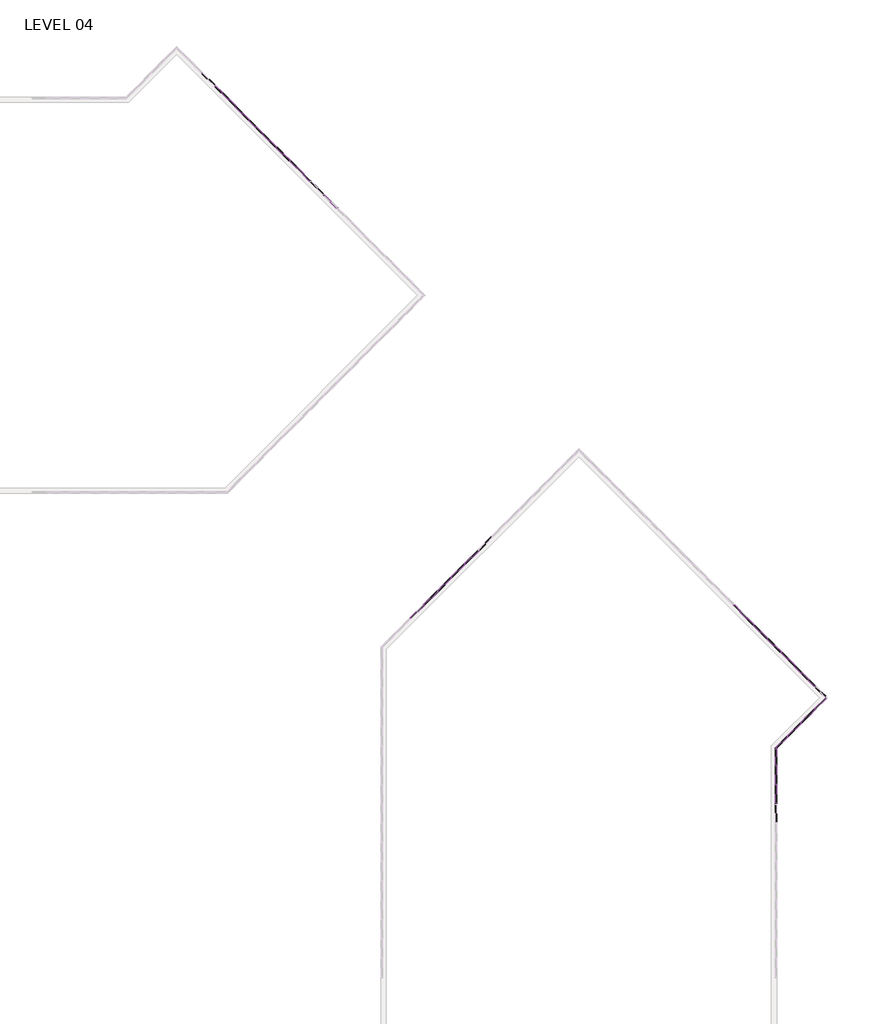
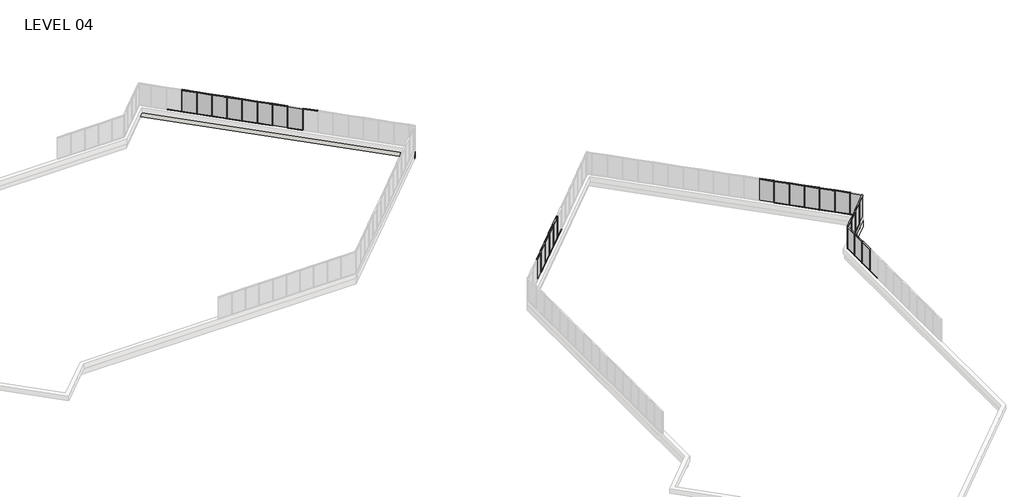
# One storey, part 16 of 17: 80 members, 27 plates, 2 walls.
"""IFC4 building model written with IfcOpenShell, lengths in millimetres."""

from ifc_helpers import new_model, si_unit, origin, place, context, project, spatial, faceted_brep, transform, mapped, element, save
from components import member_5247f267, member_e44af9ab, member_c23f844a, member_ed9c17d6, member_800970d4, member_45eb7f2e, member_53409b32, member_43bac76b, member_0b71a88d, plate_67294edd, plate_50b9cd61, plate_048e4634, plate_dca6a18a, plate_aaac5d3d, plate_9c66726c, plate_e0fd5134, plate_15429445, plate_0d1907f3, plate_903242d9

model = new_model("IFC4")

# Units and contexts
model_context = context("Model", 3, world=origin())
ifc_project = project(units=[si_unit("LENGTHUNIT", "METRE", prefix="MILLI")], contexts=[model_context])

# Site, building, storey
site = spatial("IfcSite", under=ifc_project)
building = spatial("IfcBuilding", under=site)
storey = spatial("IfcBuildingStorey", under=building, Name="LEVEL 04", Elevation=12052.3)

# Members
placement = place(None, origin())
member_shape = member_5247f267(model_context)
element("IfcMember", 1, ObjectType="Rectangular Mullion : 2\" x 4.5\" rectangular", at=placement, inside=storey, context=model_context, shape_type="MappedRepresentation", body=[
    mapped(member_shape, transform((56684.0325556, 112485.575885, 12052.3), x_axis=(0.0, 0.0, -1.0), y_axis=(0.7071067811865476, 0.7071067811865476, 0.0), z_axis=(0.7071067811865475, -0.7071067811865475, 0.0))),
])
element("IfcMember", 2, ObjectType="Rectangular Mullion : 2\" x 4.5\" rectangular", at=placement, inside=storey, context=model_context, shape_type="MappedRepresentation", body=[
    mapped(member_shape, transform((50242.2689164, 118927.3395242, 12052.3), x_axis=(0.0, 0.0, -1.0), y_axis=(0.7071067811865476, 0.7071067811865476, 0.0), z_axis=(0.7071067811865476, -0.7071067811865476, 0.0))),
])
element("IfcMember", 3, ObjectType="Rectangular Mullion : 2\" x 4.5\" rectangular", at=placement, inside=storey, context=model_context, shape_type="MappedRepresentation", body=[
    mapped(member_shape, transform((49164.6381819, 120004.9702587, 12052.3), x_axis=(0.0, 0.0, -1.0), y_axis=(0.7071067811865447, 0.7071067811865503, 0.0), z_axis=(0.7071067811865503, -0.7071067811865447, 0.0))),
])
element("IfcMember", 4, ObjectType="Rectangular Mullion : 2\" x 4.5\" rectangular", at=placement, inside=storey, context=model_context, shape_type="MappedRepresentation", body=[
    mapped(member_shape, transform((48087.0074473, 121082.6009932, 12052.3), x_axis=(0.0, 0.0, -1.0), y_axis=(0.7071067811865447, 0.7071067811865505, 0.0), z_axis=(0.7071067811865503, -0.7071067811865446, 0.0))),
])
element("IfcMember", 5, ObjectType="Rectangular Mullion : 2\" x 4.5\" rectangular", at=placement, inside=storey, context=model_context, shape_type="MappedRepresentation", body=[
    mapped(member_shape, transform((56719.9535801, 112449.6548605, 14643.1), x_axis=(0.0, 0.0, 1.0), y_axis=(0.7071067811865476, 0.7071067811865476, 0.0), z_axis=(-0.7071067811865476, 0.7071067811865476, 0.0))),
])
element("IfcMember", 6, ObjectType="Rectangular Mullion : 2\" x 4.5\" rectangular", at=placement, inside=storey, context=model_context, shape_type="MappedRepresentation", body=[
    mapped(member_shape, transform((49200.5592064, 119969.0492342, 14643.1), x_axis=(0.0, 0.0, 1.0), y_axis=(0.7071067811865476, 0.7071067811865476, 0.0), z_axis=(-0.7071067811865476, 0.7071067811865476, 0.0))),
])
element("IfcMember", 7, ObjectType="Rectangular Mullion : 2\" x 4.5\" rectangular", at=placement, inside=storey, context=model_context, shape_type="MappedRepresentation", body=[
    mapped(member_shape, transform((48122.9284718, 121046.6799687, 14643.1), x_axis=(0.0, 0.0, 1.0), y_axis=(0.7071067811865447, 0.7071067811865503, 0.0), z_axis=(-0.7071067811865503, 0.7071067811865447, 0.0))),
])
member_2_shape = member_e44af9ab(model_context)
element("IfcMember", 8, ObjectType="Rectangular Mullion : 2\" x 4.5\" rectangular", at=placement, inside=storey, context=model_context, shape_type="MappedRepresentation", body=[
    mapped(member_2_shape, transform((56701.9930678, 112467.6153727, 12052.3), x_axis=(-0.7071067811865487, 0.7071067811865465, 0.0), y_axis=(0.7071067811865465, 0.7071067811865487, 0.0), z_axis=(0.0, 0.0, -1.0))),
])
element("IfcMember", 9, ObjectType="Rectangular Mullion : 2\" x 4.5\" rectangular", at=placement, inside=storey, context=model_context, shape_type="MappedRepresentation", body=[
    mapped(member_2_shape, transform((55624.3980678, 113545.2103727, 12052.3), x_axis=(-0.7071067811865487, 0.7071067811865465, 0.0), y_axis=(0.7071067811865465, 0.7071067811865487, 0.0), z_axis=(0.0, 0.0, -1.0))),
])
element("IfcMember", 10, ObjectType="Rectangular Mullion : 2\" x 4.5\" rectangular", at=placement, inside=storey, context=model_context, shape_type="MappedRepresentation", body=[
    mapped(member_2_shape, transform((53475.159658, 115694.4487825, 12052.3), x_axis=(-0.7071067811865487, 0.7071067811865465, 0.0), y_axis=(0.7071067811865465, 0.7071067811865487, 0.0), z_axis=(0.0, 0.0, -1.0))),
])
element("IfcMember", 11, ObjectType="Rectangular Mullion : 2\" x 4.5\" rectangular", at=placement, inside=storey, context=model_context, shape_type="MappedRepresentation", body=[
    mapped(member_2_shape, transform((52403.5162482, 116766.0921923, 12052.3), x_axis=(-0.7071067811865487, 0.7071067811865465, 0.0), y_axis=(0.7071067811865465, 0.7071067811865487, 0.0), z_axis=(0.0, 0.0, -1.0))),
])
element("IfcMember", 12, ObjectType="Rectangular Mullion : 2\" x 4.5\" rectangular", at=placement, inside=storey, context=model_context, shape_type="MappedRepresentation", body=[
    mapped(member_2_shape, transform((51331.8728384, 117837.7356021, 12052.3), x_axis=(-0.7071067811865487, 0.7071067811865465, 0.0), y_axis=(0.7071067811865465, 0.7071067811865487, 0.0), z_axis=(0.0, 0.0, -1.0))),
])
element("IfcMember", 13, ObjectType="Rectangular Mullion : 2\" x 4.5\" rectangular", at=placement, inside=storey, context=model_context, shape_type="MappedRepresentation", body=[
    mapped(member_2_shape, transform((50260.2294286, 118909.3790119, 12052.3), x_axis=(-0.7071067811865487, 0.7071067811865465, 0.0), y_axis=(0.7071067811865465, 0.7071067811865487, 0.0), z_axis=(0.0, 0.0, -1.0))),
])
element("IfcMember", 14, ObjectType="Rectangular Mullion : 2\" x 4.5\" rectangular", at=placement, inside=storey, context=model_context, shape_type="MappedRepresentation", body=[
    mapped(member_2_shape, transform((54549.7788629, 114619.8295776, 12052.3), x_axis=(-0.7071067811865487, 0.7071067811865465, 0.0), y_axis=(0.7071067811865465, 0.7071067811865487, 0.0), z_axis=(0.0, 0.0, -1.0))),
])
element("IfcMember", 15, ObjectType="Rectangular Mullion : 2\" x 4.5\" rectangular", at=placement, inside=storey, context=model_context, shape_type="MappedRepresentation", body=[
    mapped(member_2_shape, transform((49182.5986941, 119987.0097464, 12052.3), x_axis=(-0.7071067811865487, 0.7071067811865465, 0.0), y_axis=(0.7071067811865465, 0.7071067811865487, 0.0), z_axis=(0.0, 0.0, -1.0))),
])
element("IfcMember", 16, ObjectType="Rectangular Mullion : 2\" x 4.5\" rectangular", at=placement, inside=storey, context=model_context, shape_type="MappedRepresentation", body=[
    mapped(member_2_shape, transform((48104.9679596, 121064.640481, 12052.3), x_axis=(-0.7071067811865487, 0.7071067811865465, 0.0), y_axis=(0.7071067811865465, 0.7071067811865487, 0.0), z_axis=(0.0, 0.0, -1.0))),
])
member_3_shape = member_c23f844a(model_context)
element("IfcMember", 17, ObjectType="Rectangular Mullion : 2\" x 4.5\" rectangular", at=placement, inside=storey, context=model_context, shape_type="MappedRepresentation", body=[
    mapped(member_3_shape, transform((52421.4767605, 116748.1316801, 14643.1), x_axis=(0.0, 0.0, 1.0), y_axis=(0.7071067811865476, 0.7071067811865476, 0.0), z_axis=(-0.7071067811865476, 0.7071067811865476, 0.0))),
])
element("IfcMember", 18, ObjectType="Rectangular Mullion : 2\" x 4.5\" rectangular", at=placement, inside=storey, context=model_context, shape_type="MappedRepresentation", body=[
    mapped(member_3_shape, transform((51349.8333507, 117819.7750899, 14643.1), x_axis=(0.0, 0.0, 1.0), y_axis=(0.7071067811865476, 0.7071067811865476, 0.0), z_axis=(-0.7071067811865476, 0.7071067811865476, 0.0))),
])
element("IfcMember", 19, ObjectType="Rectangular Mullion : 2\" x 4.5\" rectangular", at=placement, inside=storey, context=model_context, shape_type="MappedRepresentation", body=[
    mapped(member_3_shape, transform((50278.1899409, 118891.4184997, 14643.1), x_axis=(0.0, 0.0, 1.0), y_axis=(0.7071067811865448, 0.7071067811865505, 0.0), z_axis=(-0.7071067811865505, 0.7071067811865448, 0.0))),
])
element("IfcMember", 20, ObjectType="Rectangular Mullion : 2\" x 4.5\" rectangular", at=placement, inside=storey, context=model_context, shape_type="MappedRepresentation", body=[
    mapped(member_3_shape, transform((53457.1991458, 115712.4092948, 12052.3), x_axis=(0.0, 0.0, -1.0), y_axis=(0.7071067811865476, 0.7071067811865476, 0.0), z_axis=(0.7071067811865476, -0.7071067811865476, 0.0))),
])
element("IfcMember", 21, ObjectType="Rectangular Mullion : 2\" x 4.5\" rectangular", at=placement, inside=storey, context=model_context, shape_type="MappedRepresentation", body=[
    mapped(member_3_shape, transform((52385.555736, 116784.0527046, 12052.3), x_axis=(0.0, 0.0, -1.0), y_axis=(0.7071067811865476, 0.7071067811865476, 0.0), z_axis=(0.7071067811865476, -0.7071067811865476, 0.0))),
])
element("IfcMember", 22, ObjectType="Rectangular Mullion : 2\" x 4.5\" rectangular", at=placement, inside=storey, context=model_context, shape_type="MappedRepresentation", body=[
    mapped(member_3_shape, transform((51313.9123262, 117855.6961144, 12052.3), x_axis=(0.0, 0.0, -1.0), y_axis=(0.7071067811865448, 0.7071067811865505, 0.0), z_axis=(0.7071067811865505, -0.7071067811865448, 0.0))),
])
member_4_shape = member_ed9c17d6(model_context)
element("IfcMember", 23, ObjectType="Rectangular Mullion : 2\" x 4.5\" rectangular", at=placement, inside=storey, context=model_context, shape_type="MappedRepresentation", body=[
    mapped(member_4_shape, transform((53493.1201703, 115676.4882703, 14643.1), x_axis=(0.0, 0.0, 1.0), y_axis=(0.7071067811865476, 0.7071067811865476, 0.0), z_axis=(-0.7071067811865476, 0.7071067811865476, 0.0))),
])
element("IfcMember", 24, ObjectType="Rectangular Mullion : 2\" x 4.5\" rectangular", at=placement, inside=storey, context=model_context, shape_type="MappedRepresentation", body=[
    mapped(member_4_shape, transform((54567.7393752, 114601.8690654, 14643.1), x_axis=(0.0, 0.0, 1.0), y_axis=(0.7071067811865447, 0.7071067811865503, 0.0), z_axis=(-0.7071067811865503, 0.7071067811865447, 0.0))),
])
element("IfcMember", 25, ObjectType="Rectangular Mullion : 2\" x 4.5\" rectangular", at=placement, inside=storey, context=model_context, shape_type="MappedRepresentation", body=[
    mapped(member_4_shape, transform((54531.8183507, 114637.7900899, 12052.3), x_axis=(0.0, 0.0, -1.0), y_axis=(0.7071067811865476, 0.7071067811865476, 0.0), z_axis=(0.7071067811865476, -0.7071067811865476, 0.0))),
])
element("IfcMember", 26, ObjectType="Rectangular Mullion : 2\" x 4.5\" rectangular", at=placement, inside=storey, context=model_context, shape_type="MappedRepresentation", body=[
    mapped(member_shape, transform((92435.9347164, 65925.3675885, 14643.1), x_axis=(0.0, 0.0, 1.0), y_axis=(-1.0, 0.0, 0.0), z_axis=(0.0, -1.0, 0.0))),
])
element("IfcMember", 27, ObjectType="Rectangular Mullion : 2\" x 4.5\" rectangular", at=placement, inside=storey, context=model_context, shape_type="MappedRepresentation", body=[
    mapped(member_shape, transform((92435.9347164, 64401.3675885, 14643.1), x_axis=(0.0, 0.0, 1.0), y_axis=(-1.0, 0.0, 0.0), z_axis=(0.0, -1.0, 0.0))),
])
element("IfcMember", 28, ObjectType="Rectangular Mullion : 2\" x 4.5\" rectangular", at=placement, inside=storey, context=model_context, shape_type="MappedRepresentation", body=[
    mapped(member_shape, transform((64595.6050033, 80065.494011, 14643.1), x_axis=(0.0, 0.0, 1.0), y_axis=(0.7071067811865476, -0.7071067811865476, 0.0), z_axis=(0.7071067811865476, 0.7071067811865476, 0.0))),
])
element("IfcMember", 29, ObjectType="Rectangular Mullion : 2\" x 4.5\" rectangular", at=placement, inside=storey, context=model_context, shape_type="MappedRepresentation", body=[
    mapped(member_shape, transform((65673.2357378, 81143.1247456, 14643.1), x_axis=(0.0, 0.0, 1.0), y_axis=(0.7071067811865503, -0.7071067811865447, 0.0), z_axis=(0.7071067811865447, 0.7071067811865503, 0.0))),
])
element("IfcMember", 30, ObjectType="Rectangular Mullion : 2\" x 4.5\" rectangular", at=placement, inside=storey, context=model_context, shape_type="MappedRepresentation", body=[
    mapped(member_shape, transform((67828.4824051, 83298.3714129, 14643.1), x_axis=(0.0, 0.0, 1.0), y_axis=(0.7071067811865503, -0.7071067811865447, 0.0), z_axis=(0.7071067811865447, 0.7071067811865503, 0.0))),
])
element("IfcMember", 31, ObjectType="Rectangular Mullion : 2\" x 4.5\" rectangular", at=placement, inside=storey, context=model_context, shape_type="MappedRepresentation", body=[
    mapped(member_shape, transform((68906.0983379, 84375.9873457, 14643.1), x_axis=(0.0, 0.0, 1.0), y_axis=(0.7071067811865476, -0.7071067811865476, 0.0), z_axis=(0.7071067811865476, 0.7071067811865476, 0.0))),
])
element("IfcMember", 32, ObjectType="Rectangular Mullion : 2\" x 4.5\" rectangular", at=placement, inside=storey, context=model_context, shape_type="MappedRepresentation", body=[
    mapped(member_shape, transform((66750.8590715, 82220.7480792, 14643.1), x_axis=(0.0, 0.0, 1.0), y_axis=(0.7071067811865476, -0.7071067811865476, 0.0), z_axis=(0.7071067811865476, 0.7071067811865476, 0.0))),
])
element("IfcMember", 33, ObjectType="Rectangular Mullion : 2\" x 4.5\" rectangular", at=placement, inside=storey, context=model_context, shape_type="MappedRepresentation", body=[
    mapped(member_shape, transform((92277.0316457, 76892.5767949, 14643.1), x_axis=(0.0, 0.0, 1.0), y_axis=(-0.7071067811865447, -0.7071067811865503, 0.0), z_axis=(0.7071067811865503, -0.7071067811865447, 0.0))),
])
element("IfcMember", 34, ObjectType="Rectangular Mullion : 2\" x 4.5\" rectangular", at=placement, inside=storey, context=model_context, shape_type="MappedRepresentation", body=[
    mapped(member_shape, transform((93354.6623802, 75814.9460603, 14643.1), x_axis=(0.0, 0.0, 1.0), y_axis=(-0.7071067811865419, -0.7071067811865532, 0.0), z_axis=(0.7071067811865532, -0.7071067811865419, 0.0))),
])
element("IfcMember", 35, ObjectType="Rectangular Mullion : 2\" x 4.5\" rectangular", at=placement, inside=storey, context=model_context, shape_type="MappedRepresentation", body=[
    mapped(member_shape, transform((94432.2931147, 74737.3153258, 14643.1), x_axis=(0.0, 0.0, 1.0), y_axis=(-0.7071067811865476, -0.7071067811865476, 0.0), z_axis=(0.7071067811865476, -0.7071067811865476, 0.0))),
])
element("IfcMember", 36, ObjectType="Rectangular Mullion : 2\" x 4.5\" rectangular", at=placement, inside=storey, context=model_context, shape_type="MappedRepresentation", body=[
    mapped(member_shape, transform((95509.9238493, 73659.6845913, 14643.1), x_axis=(0.0, 0.0, 1.0), y_axis=(-0.7071067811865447, -0.7071067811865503, 0.0), z_axis=(0.7071067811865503, -0.7071067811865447, 0.0))),
])
element("IfcMember", 37, ObjectType="Rectangular Mullion : 2\" x 4.5\" rectangular", at=placement, inside=storey, context=model_context, shape_type="MappedRepresentation", body=[
    mapped(member_shape, transform((94441.1847655, 70787.511502, 14643.1), x_axis=(0.0, 0.0, 1.0), y_axis=(-0.7071067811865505, 0.7071067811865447, 0.0), z_axis=(-0.7071067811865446, -0.7071067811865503, 0.0))),
])
element("IfcMember", 38, ObjectType="Rectangular Mullion : 2\" x 4.5\" rectangular", at=placement, inside=storey, context=model_context, shape_type="MappedRepresentation", body=[
    mapped(member_shape, transform((93363.554031, 69709.8807675, 14643.1), x_axis=(0.0, 0.0, 1.0), y_axis=(-0.7071067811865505, 0.7071067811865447, 0.0), z_axis=(-0.7071067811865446, -0.7071067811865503, 0.0))),
])
element("IfcMember", 39, ObjectType="Rectangular Mullion : 2\" x 4.5\" rectangular", at=placement, inside=storey, context=model_context, shape_type="MappedRepresentation", body=[
    mapped(member_shape, transform((92435.9347164, 67398.5675885, 12052.3), x_axis=(0.0, 0.0, -1.0), y_axis=(-1.0, 0.0, 0.0), z_axis=(0.0, 1.0, 0.0))),
])
element("IfcMember", 40, ObjectType="Rectangular Mullion : 2\" x 4.5\" rectangular", at=placement, inside=storey, context=model_context, shape_type="MappedRepresentation", body=[
    mapped(member_shape, transform((92435.9347164, 65874.5675885, 12052.3), x_axis=(0.0, 0.0, -1.0), y_axis=(-1.0, 0.0, 0.0), z_axis=(0.0, 1.0, 0.0))),
])
element("IfcMember", 41, ObjectType="Rectangular Mullion : 2\" x 4.5\" rectangular", at=placement, inside=storey, context=model_context, shape_type="MappedRepresentation", body=[
    mapped(member_shape, transform((92435.9347164, 64350.5675885, 12052.3), x_axis=(0.0, 0.0, -1.0), y_axis=(-1.0, 0.0, 0.0), z_axis=(0.0, 1.0, 0.0))),
])
element("IfcMember", 42, ObjectType="Rectangular Mullion : 2\" x 4.5\" rectangular", at=placement, inside=storey, context=model_context, shape_type="MappedRepresentation", body=[
    mapped(member_shape, transform((64631.5260278, 80101.4150355, 12052.3), x_axis=(0.0, 0.0, -1.0), y_axis=(0.7071067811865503, -0.7071067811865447, 0.0), z_axis=(-0.7071067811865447, -0.7071067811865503, 0.0))),
])
element("IfcMember", 43, ObjectType="Rectangular Mullion : 2\" x 4.5\" rectangular", at=placement, inside=storey, context=model_context, shape_type="MappedRepresentation", body=[
    mapped(member_shape, transform((65709.1567623, 81179.04577, 12052.3), x_axis=(0.0, 0.0, -1.0), y_axis=(0.7071067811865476, -0.7071067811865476, 0.0), z_axis=(-0.7071067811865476, -0.7071067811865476, 0.0))),
])
element("IfcMember", 44, ObjectType="Rectangular Mullion : 2\" x 4.5\" rectangular", at=placement, inside=storey, context=model_context, shape_type="MappedRepresentation", body=[
    mapped(member_shape, transform((67864.4034296, 83334.2924374, 12052.3), x_axis=(0.0, 0.0, -1.0), y_axis=(0.7071067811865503, -0.7071067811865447, 0.0), z_axis=(-0.7071067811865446, -0.7071067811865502, 0.0))),
])
element("IfcMember", 45, ObjectType="Rectangular Mullion : 2\" x 4.5\" rectangular", at=placement, inside=storey, context=model_context, shape_type="MappedRepresentation", body=[
    mapped(member_shape, transform((68942.0193624, 84411.9083702, 12052.3), x_axis=(0.0, 0.0, -1.0), y_axis=(0.7071067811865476, -0.7071067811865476, 0.0), z_axis=(-0.7071067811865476, -0.7071067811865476, 0.0))),
])
element("IfcMember", 46, ObjectType="Rectangular Mullion : 2\" x 4.5\" rectangular", at=placement, inside=storey, context=model_context, shape_type="MappedRepresentation", body=[
    mapped(member_shape, transform((66786.780096, 82256.6691037, 12052.3), x_axis=(0.0, 0.0, -1.0), y_axis=(0.7071067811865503, -0.7071067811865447, 0.0), z_axis=(-0.7071067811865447, -0.7071067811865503, 0.0))),
])
element("IfcMember", 47, ObjectType="Rectangular Mullion : 2\" x 4.5\" rectangular", at=placement, inside=storey, context=model_context, shape_type="MappedRepresentation", body=[
    mapped(member_shape, transform((91235.3219356, 77934.2865049, 12052.3), x_axis=(0.0, 0.0, -1.0), y_axis=(-0.7071067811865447, -0.7071067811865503, 0.0), z_axis=(-0.7071067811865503, 0.7071067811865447, 0.0))),
])
element("IfcMember", 48, ObjectType="Rectangular Mullion : 2\" x 4.5\" rectangular", at=placement, inside=storey, context=model_context, shape_type="MappedRepresentation", body=[
    mapped(member_shape, transform((92312.9526702, 76856.6557704, 12052.3), x_axis=(0.0, 0.0, -1.0), y_axis=(-0.7071067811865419, -0.7071067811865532, 0.0), z_axis=(-0.7071067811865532, 0.7071067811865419, 0.0))),
])
element("IfcMember", 49, ObjectType="Rectangular Mullion : 2\" x 4.5\" rectangular", at=placement, inside=storey, context=model_context, shape_type="MappedRepresentation", body=[
    mapped(member_shape, transform((93390.5834047, 75779.0250359, 12052.3), x_axis=(0.0, 0.0, -1.0), y_axis=(-0.7071067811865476, -0.7071067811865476, 0.0), z_axis=(-0.7071067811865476, 0.7071067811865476, 0.0))),
])
element("IfcMember", 50, ObjectType="Rectangular Mullion : 2\" x 4.5\" rectangular", at=placement, inside=storey, context=model_context, shape_type="MappedRepresentation", body=[
    mapped(member_shape, transform((94468.2141392, 74701.3943013, 12052.3), x_axis=(0.0, 0.0, -1.0), y_axis=(-0.7071067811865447, -0.7071067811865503, 0.0), z_axis=(-0.7071067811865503, 0.7071067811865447, 0.0))),
])
element("IfcMember", 51, ObjectType="Rectangular Mullion : 2\" x 4.5\" rectangular", at=placement, inside=storey, context=model_context, shape_type="MappedRepresentation", body=[
    mapped(member_shape, transform((94405.263741, 70751.5904775, 12052.3), x_axis=(0.0, 0.0, -1.0), y_axis=(-0.7071067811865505, 0.7071067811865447, 0.0), z_axis=(0.7071067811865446, 0.7071067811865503, 0.0))),
])
element("IfcMember", 52, ObjectType="Rectangular Mullion : 2\" x 4.5\" rectangular", at=placement, inside=storey, context=model_context, shape_type="MappedRepresentation", body=[
    mapped(member_shape, transform((95482.8944756, 71829.221212, 12052.3), x_axis=(0.0, 0.0, -1.0), y_axis=(-0.7071067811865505, 0.7071067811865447, 0.0), z_axis=(0.7071067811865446, 0.7071067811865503, 0.0))),
])
element("IfcMember", 53, ObjectType="Rectangular Mullion : 2\" x 4.5\" rectangular", at=placement, inside=storey, context=model_context, shape_type="MappedRepresentation", body=[
    mapped(member_2_shape, transform((92435.9347164, 67423.9675885, 12052.3), x_axis=(0.0, -1.0, 0.0), y_axis=(-1.0, 0.0, 0.0), z_axis=(0.0, 0.0, -1.0))),
])
element("IfcMember", 54, ObjectType="Rectangular Mullion : 2\" x 4.5\" rectangular", at=placement, inside=storey, context=model_context, shape_type="MappedRepresentation", body=[
    mapped(member_2_shape, transform((92435.9347164, 65899.9675885, 12052.3), x_axis=(0.0, -1.0, 0.0), y_axis=(-1.0, 0.0, 0.0), z_axis=(0.0, 0.0, -1.0))),
])
element("IfcMember", 55, ObjectType="Rectangular Mullion : 2\" x 4.5\" rectangular", at=placement, inside=storey, context=model_context, shape_type="MappedRepresentation", body=[
    mapped(member_2_shape, transform((92435.9347164, 64375.9675885, 12052.3), x_axis=(0.0, -1.0, 0.0), y_axis=(-1.0, 0.0, 0.0), z_axis=(0.0, 0.0, -1.0))),
])
element("IfcMember", 56, ObjectType="Rectangular Mullion : 2\" x 4.5\" rectangular", at=placement, inside=storey, context=model_context, shape_type="MappedRepresentation", body=[
    mapped(member_2_shape, transform((64613.5655155, 80083.4545233, 12052.3), x_axis=(0.7071067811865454, 0.7071067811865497, 0.0), y_axis=(0.7071067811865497, -0.7071067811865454, 0.0), z_axis=(0.0, 0.0, -1.0))),
])
element("IfcMember", 57, ObjectType="Rectangular Mullion : 2\" x 4.5\" rectangular", at=placement, inside=storey, context=model_context, shape_type="MappedRepresentation", body=[
    mapped(member_2_shape, transform((65691.1962501, 81161.0852578, 12052.3), x_axis=(0.7071067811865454, 0.7071067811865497, 0.0), y_axis=(0.7071067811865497, -0.7071067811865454, 0.0), z_axis=(0.0, 0.0, -1.0))),
])
element("IfcMember", 58, ObjectType="Rectangular Mullion : 2\" x 4.5\" rectangular", at=placement, inside=storey, context=model_context, shape_type="MappedRepresentation", body=[
    mapped(member_2_shape, transform((67846.4429174, 83316.3319251, 12052.3), x_axis=(0.7071067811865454, 0.7071067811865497, 0.0), y_axis=(0.7071067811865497, -0.7071067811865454, 0.0), z_axis=(0.0, 0.0, -1.0))),
])
element("IfcMember", 59, ObjectType="Rectangular Mullion : 2\" x 4.5\" rectangular", at=placement, inside=storey, context=model_context, shape_type="MappedRepresentation", body=[
    mapped(member_2_shape, transform((68924.0588502, 84393.9478579, 12052.3), x_axis=(0.7071067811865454, 0.7071067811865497, 0.0), y_axis=(0.7071067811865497, -0.7071067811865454, 0.0), z_axis=(0.0, 0.0, -1.0))),
])
element("IfcMember", 60, ObjectType="Rectangular Mullion : 2\" x 4.5\" rectangular", at=placement, inside=storey, context=model_context, shape_type="MappedRepresentation", body=[
    mapped(member_2_shape, transform((66768.8195837, 82238.7085915, 12052.3), x_axis=(0.7071067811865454, 0.7071067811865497, 0.0), y_axis=(0.7071067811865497, -0.7071067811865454, 0.0), z_axis=(0.0, 0.0, -1.0))),
])
element("IfcMember", 61, ObjectType="Rectangular Mullion : 2\" x 4.5\" rectangular", at=placement, inside=storey, context=model_context, shape_type="MappedRepresentation", body=[
    mapped(member_2_shape, transform((90145.7180136, 79023.890427, 12052.3), x_axis=(0.7071067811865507, -0.7071067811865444, 0.0), y_axis=(-0.7071067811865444, -0.7071067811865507, 0.0), z_axis=(0.0, 0.0, -1.0))),
])
element("IfcMember", 62, ObjectType="Rectangular Mullion : 2\" x 4.5\" rectangular", at=placement, inside=storey, context=model_context, shape_type="MappedRepresentation", body=[
    mapped(member_2_shape, transform((91217.3614234, 77952.2470172, 12052.3), x_axis=(0.7071067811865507, -0.7071067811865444, 0.0), y_axis=(-0.7071067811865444, -0.7071067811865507, 0.0), z_axis=(0.0, 0.0, -1.0))),
])
element("IfcMember", 63, ObjectType="Rectangular Mullion : 2\" x 4.5\" rectangular", at=placement, inside=storey, context=model_context, shape_type="MappedRepresentation", body=[
    mapped(member_2_shape, transform((92294.9921579, 76874.6162826, 12052.3), x_axis=(0.7071067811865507, -0.7071067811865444, 0.0), y_axis=(-0.7071067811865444, -0.7071067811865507, 0.0), z_axis=(0.0, 0.0, -1.0))),
])
element("IfcMember", 64, ObjectType="Rectangular Mullion : 2\" x 4.5\" rectangular", at=placement, inside=storey, context=model_context, shape_type="MappedRepresentation", body=[
    mapped(member_2_shape, transform((93372.6228924, 75796.9855481, 12052.3), x_axis=(0.7071067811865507, -0.7071067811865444, 0.0), y_axis=(-0.7071067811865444, -0.7071067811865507, 0.0), z_axis=(0.0, 0.0, -1.0))),
])
element("IfcMember", 65, ObjectType="Rectangular Mullion : 2\" x 4.5\" rectangular", at=placement, inside=storey, context=model_context, shape_type="MappedRepresentation", body=[
    mapped(member_2_shape, transform((94450.253627, 74719.3548136, 12052.3), x_axis=(0.7071067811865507, -0.7071067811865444, 0.0), y_axis=(-0.7071067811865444, -0.7071067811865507, 0.0), z_axis=(0.0, 0.0, -1.0))),
])
element("IfcMember", 66, ObjectType="Rectangular Mullion : 2\" x 4.5\" rectangular", at=placement, inside=storey, context=model_context, shape_type="MappedRepresentation", body=[
    mapped(member_2_shape, transform((95527.8843615, 73641.724079, 12052.3), x_axis=(0.7071067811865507, -0.7071067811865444, 0.0), y_axis=(-0.7071067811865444, -0.7071067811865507, 0.0), z_axis=(0.0, 0.0, -1.0))),
])
element("IfcMember", 67, ObjectType="Rectangular Mullion : 2\" x 4.5\" rectangular", at=placement, inside=storey, context=model_context, shape_type="MappedRepresentation", body=[
    mapped(member_2_shape, transform((94423.2242533, 70769.5509898, 12052.3), x_axis=(-0.7071067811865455, -0.7071067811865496, 0.0), y_axis=(-0.7071067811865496, 0.7071067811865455, 0.0), z_axis=(0.0, 0.0, -1.0))),
])
element("IfcMember", 68, ObjectType="Rectangular Mullion : 2\" x 4.5\" rectangular", at=placement, inside=storey, context=model_context, shape_type="MappedRepresentation", body=[
    mapped(member_2_shape, transform((93345.5935187, 69691.9202552, 12052.3), x_axis=(-0.7071067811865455, -0.7071067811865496, 0.0), y_axis=(-0.7071067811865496, 0.7071067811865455, 0.0), z_axis=(0.0, 0.0, -1.0))),
])
element("IfcMember", 69, ObjectType="Rectangular Mullion : 2\" x 4.5\" rectangular", at=placement, inside=storey, context=model_context, shape_type="MappedRepresentation", body=[
    mapped(member_2_shape, transform((95500.8549878, 71847.1817243, 12052.3), x_axis=(-0.7071067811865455, -0.7071067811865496, 0.0), y_axis=(-0.7071067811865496, 0.7071067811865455, 0.0), z_axis=(0.0, 0.0, -1.0))),
])
member_5_shape = member_800970d4(model_context)
element("IfcMember", 70, ObjectType="Rectangular Mullion : 2\" x 4.5\" rectangular", at=placement, inside=storey, context=model_context, shape_type="MappedRepresentation", body=[
    mapped(member_5_shape, transform((92435.9347164, 68782.2614529, 12052.3), x_axis=(-0.7071067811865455, -0.7071067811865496, 0.0), y_axis=(-0.7071067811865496, 0.7071067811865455, 0.0), z_axis=(0.0, 0.0, -1.0))),
])
element("IfcMember", 71, ObjectType="Rectangular Mullion : 2\" x 4.5\" rectangular", at=placement, inside=storey, context=model_context, shape_type="MappedRepresentation", body=[
    mapped(member_5_shape, transform((92435.9347164, 68782.2614529, 14643.1), x_axis=(0.0, 1.0, 0.0), y_axis=(-1.0, 0.0, 0.0), z_axis=(0.0, 0.0, 1.0))),
])
element("IfcMember", 72, ObjectType="Rectangular Mullion : 2\" x 4.5\" rectangular", at=placement, inside=storey, context=model_context, shape_type="MappedRepresentation", body=[
    mapped(member_3_shape, transform((90127.7575014, 79041.8509392, 14643.1), x_axis=(0.0, 0.0, 1.0), y_axis=(-0.7071067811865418, -0.7071067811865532, 0.0), z_axis=(0.7071067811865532, -0.7071067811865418, 0.0))),
])
element("IfcMember", 73, ObjectType="Rectangular Mullion : 2\" x 4.5\" rectangular", at=placement, inside=storey, context=model_context, shape_type="MappedRepresentation", body=[
    mapped(member_3_shape, transform((91199.4009111, 77970.2075294, 14643.1), x_axis=(0.0, 0.0, 1.0), y_axis=(-0.7071067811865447, -0.7071067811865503, 0.0), z_axis=(0.7071067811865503, -0.7071067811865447, 0.0))),
])
element("IfcMember", 74, ObjectType="Rectangular Mullion : 2\" x 4.5\" rectangular", at=placement, inside=storey, context=model_context, shape_type="MappedRepresentation", body=[
    mapped(member_3_shape, transform((90163.6785258, 79005.9299147, 12052.3), x_axis=(0.0, 0.0, -1.0), y_axis=(-0.7071067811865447, -0.7071067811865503, 0.0), z_axis=(-0.7071067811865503, 0.7071067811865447, 0.0))),
])
member_6_shape = member_45eb7f2e(model_context)
element("IfcMember", 75, ObjectType="Rectangular Mullion : 2\" x 4.5\" rectangular", at=placement, inside=storey, context=model_context, shape_type="MappedRepresentation", body=[
    mapped(member_6_shape, transform((92435.9347164, 67449.3675885, 14643.1), x_axis=(0.0, 0.0, 1.0), y_axis=(-1.0, 0.0, 0.0), z_axis=(0.0, -1.0, 0.0))),
])
element("IfcMember", 76, ObjectType="Rectangular Mullion : 2\" x 4.5\" rectangular", at=placement, inside=storey, context=model_context, shape_type="MappedRepresentation", body=[
    mapped(member_6_shape, transform((92435.9347164, 68731.4614529, 12052.3), x_axis=(0.0, 0.0, -1.0), y_axis=(-1.0, 0.0, 0.0), z_axis=(0.0, 1.0, 0.0))),
])
member_7_shape = member_53409b32(model_context)
element("IfcMember", 77, ObjectType="Rectangular Mullion : 2\" x 4.5\" rectangular", at=placement, inside=storey, context=model_context, shape_type="MappedRepresentation", body=[
    mapped(member_7_shape, transform((95545.8448737, 73623.7635668, 12052.3), x_axis=(0.0, 0.0, -1.0), y_axis=(-0.7071067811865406, -0.7071067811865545, 0.0), z_axis=(-0.7071067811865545, 0.7071067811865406, 0.0))),
])
member_8_shape = member_43bac76b(model_context)
element("IfcMember", 78, ObjectType="Rectangular Mullion : 2\" x 4.5\" rectangular", at=placement, inside=storey, context=model_context, shape_type="MappedRepresentation", body=[
    mapped(member_8_shape, transform((92471.8557409, 68818.1824774, 14643.1), x_axis=(0.0, 0.0, 1.0), y_axis=(-0.7071067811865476, 0.7071067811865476, 0.0), z_axis=(-0.7071067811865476, -0.7071067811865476, 0.0))),
])
element("IfcMember", 79, ObjectType="Rectangular Mullion : 2\" x 4.5\" rectangular", at=placement, inside=storey, context=model_context, shape_type="MappedRepresentation", body=[
    mapped(member_8_shape, transform((93327.6330065, 69673.959743, 12052.3), x_axis=(0.0, 0.0, -1.0), y_axis=(-0.7071067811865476, 0.7071067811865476, 0.0), z_axis=(0.7071067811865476, 0.7071067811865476, 0.0))),
])
member_9_shape = member_0b71a88d(model_context)
element("IfcMember", 80, ObjectType="Rectangular Mullion : 2\" x 4.5\" rectangular", at=placement, inside=storey, context=model_context, shape_type="MappedRepresentation", body=[
    mapped(member_9_shape, transform((95518.8155, 71865.1422365, 14643.1), x_axis=(0.0, 0.0, 1.0), y_axis=(-0.7071067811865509, 0.7071067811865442, 0.0), z_axis=(-0.7071067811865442, -0.7071067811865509, 0.0))),
])

# Plates
plate_shape = plate_67294edd(model_context)
element("IfcPlate", 81, ObjectType="System Panel : 1/4\" Glass", at=placement, inside=storey, context=model_context, shape_type="MappedRepresentation", body=[
    mapped(plate_shape, transform((49721.4140614, 119448.1943792, 12103.1), x_axis=(-0.7071067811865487, 0.7071067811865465, 0.0), y_axis=(-0.7071067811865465, -0.7071067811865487, 0.0), z_axis=(0.0, 0.0, 1.0))),
])
element("IfcPlate", 82, ObjectType="System Panel : 1/4\" Glass", at=placement, inside=storey, context=model_context, shape_type="MappedRepresentation", body=[
    mapped(plate_shape, transform((48643.7833268, 120525.8251137, 12103.1), x_axis=(-0.7071067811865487, 0.7071067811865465, 0.0), y_axis=(-0.7071067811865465, -0.7071067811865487, 0.0), z_axis=(0.0, 0.0, 1.0))),
])
plate_2_shape = plate_50b9cd61(model_context)
element("IfcPlate", 83, ObjectType="System Panel : 1/4\" Glass", at=placement, inside=storey, context=model_context, shape_type="MappedRepresentation", body=[
    mapped(plate_2_shape, transform((52939.3379531, 116230.2704874, 12103.1), x_axis=(-0.7071067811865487, 0.7071067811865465, 0.0), y_axis=(-0.7071067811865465, -0.7071067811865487, 0.0), z_axis=(0.0, 0.0, 1.0))),
])
element("IfcPlate", 84, ObjectType="System Panel : 1/4\" Glass", at=placement, inside=storey, context=model_context, shape_type="MappedRepresentation", body=[
    mapped(plate_2_shape, transform((51867.6945433, 117301.9138972, 12103.1), x_axis=(-0.7071067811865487, 0.7071067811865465, 0.0), y_axis=(-0.7071067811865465, -0.7071067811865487, 0.0), z_axis=(0.0, 0.0, 1.0))),
])
element("IfcPlate", 85, ObjectType="System Panel : 1/4\" Glass", at=placement, inside=storey, context=model_context, shape_type="MappedRepresentation", body=[
    mapped(plate_2_shape, transform((50796.0511335, 118373.557307, 12103.1), x_axis=(-0.7071067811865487, 0.7071067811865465, 0.0), y_axis=(-0.7071067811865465, -0.7071067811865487, 0.0), z_axis=(0.0, 0.0, 1.0))),
])
plate_3_shape = plate_048e4634(model_context)
element("IfcPlate", 86, ObjectType="System Panel : 1/4\" Glass", at=placement, inside=storey, context=model_context, shape_type="MappedRepresentation", body=[
    mapped(plate_3_shape, transform((56163.1955678, 113006.4128727, 12103.1), x_axis=(-0.7071067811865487, 0.7071067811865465, 0.0), y_axis=(-0.7071067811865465, -0.7071067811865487, 0.0), z_axis=(0.0, 0.0, 1.0))),
])
plate_4_shape = plate_dca6a18a(model_context)
element("IfcPlate", 87, ObjectType="System Panel : 1/4\" Glass", at=placement, inside=storey, context=model_context, shape_type="MappedRepresentation", body=[
    mapped(plate_4_shape, transform((55087.0884654, 114082.5199752, 12103.1), x_axis=(-0.7071067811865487, 0.7071067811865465, 0.0), y_axis=(-0.7071067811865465, -0.7071067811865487, 0.0), z_axis=(0.0, 0.0, 1.0))),
])
element("IfcPlate", 88, ObjectType="System Panel : 1/4\" Glass", at=placement, inside=storey, context=model_context, shape_type="MappedRepresentation", body=[
    mapped(plate_4_shape, transform((54012.4692605, 115157.1391801, 12103.1), x_axis=(-0.7071067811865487, 0.7071067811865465, 0.0), y_axis=(-0.7071067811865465, -0.7071067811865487, 0.0), z_axis=(0.0, 0.0, 1.0))),
])
element("IfcPlate", 89, ObjectType="System Panel : 1/4\" Glass", at=placement, inside=storey, context=model_context, shape_type="MappedRepresentation", body=[
    mapped(plate_shape, transform((92435.9347164, 66661.9675885, 12103.1), x_axis=(0.0, -1.0, 0.0), y_axis=(1.0, 0.0, 0.0), z_axis=(0.0, 0.0, 1.0))),
])
element("IfcPlate", 90, ObjectType="System Panel : 1/4\" Glass", at=placement, inside=storey, context=model_context, shape_type="MappedRepresentation", body=[
    mapped(plate_shape, transform((92435.9347164, 65137.9675885, 12103.1), x_axis=(0.0, -1.0, 0.0), y_axis=(1.0, 0.0, 0.0), z_axis=(0.0, 0.0, 1.0))),
])
element("IfcPlate", 91, ObjectType="System Panel : 1/4\" Glass", at=placement, inside=storey, context=model_context, shape_type="MappedRepresentation", body=[
    mapped(plate_shape, transform((64074.7501483, 79544.639156, 12103.1), x_axis=(0.7071067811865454, 0.7071067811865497, 0.0), y_axis=(-0.7071067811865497, 0.7071067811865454, 0.0), z_axis=(0.0, 0.0, 1.0))),
])
element("IfcPlate", 92, ObjectType="System Panel : 1/4\" Glass", at=placement, inside=storey, context=model_context, shape_type="MappedRepresentation", body=[
    mapped(plate_shape, transform((65152.3808828, 80622.2698905, 12103.1), x_axis=(0.7071067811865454, 0.7071067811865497, 0.0), y_axis=(-0.7071067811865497, 0.7071067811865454, 0.0), z_axis=(0.0, 0.0, 1.0))),
])
element("IfcPlate", 93, ObjectType="System Panel : 1/4\" Glass", at=placement, inside=storey, context=model_context, shape_type="MappedRepresentation", body=[
    mapped(plate_shape, transform((91756.1767907, 77413.4316499, 12103.1), x_axis=(0.7071067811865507, -0.7071067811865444, 0.0), y_axis=(0.7071067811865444, 0.7071067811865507, 0.0), z_axis=(0.0, 0.0, 1.0))),
])
element("IfcPlate", 94, ObjectType="System Panel : 1/4\" Glass", at=placement, inside=storey, context=model_context, shape_type="MappedRepresentation", body=[
    mapped(plate_shape, transform((92833.8075252, 76335.8009154, 12103.1), x_axis=(0.7071067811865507, -0.7071067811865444, 0.0), y_axis=(0.7071067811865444, 0.7071067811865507, 0.0), z_axis=(0.0, 0.0, 1.0))),
])
element("IfcPlate", 95, ObjectType="System Panel : 1/4\" Glass", at=placement, inside=storey, context=model_context, shape_type="MappedRepresentation", body=[
    mapped(plate_shape, transform((93911.4382597, 75258.1701808, 12103.1), x_axis=(0.7071067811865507, -0.7071067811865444, 0.0), y_axis=(0.7071067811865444, 0.7071067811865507, 0.0), z_axis=(0.0, 0.0, 1.0))),
])
element("IfcPlate", 96, ObjectType="System Panel : 1/4\" Glass", at=placement, inside=storey, context=model_context, shape_type="MappedRepresentation", body=[
    mapped(plate_shape, transform((94989.0689942, 74180.5394463, 12103.1), x_axis=(0.7071067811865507, -0.7071067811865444, 0.0), y_axis=(0.7071067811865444, 0.7071067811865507, 0.0), z_axis=(0.0, 0.0, 1.0))),
])
element("IfcPlate", 97, ObjectType="System Panel : 1/4\" Glass", at=placement, inside=storey, context=model_context, shape_type="MappedRepresentation", body=[
    mapped(plate_shape, transform((93884.408886, 70230.7356225, 12103.1), x_axis=(-0.7071067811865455, -0.7071067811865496, 0.0), y_axis=(0.7071067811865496, -0.7071067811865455, 0.0), z_axis=(0.0, 0.0, 1.0))),
])
element("IfcPlate", 98, ObjectType="System Panel : 1/4\" Glass", at=placement, inside=storey, context=model_context, shape_type="MappedRepresentation", body=[
    mapped(plate_shape, transform((94962.0396205, 71308.366357, 12103.1), x_axis=(-0.7071067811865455, -0.7071067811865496, 0.0), y_axis=(0.7071067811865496, -0.7071067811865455, 0.0), z_axis=(0.0, 0.0, 1.0))),
])
plate_5_shape = plate_aaac5d3d(model_context)
element("IfcPlate", 99, ObjectType="System Panel : 1/4\" Glass", at=placement, inside=storey, context=model_context, shape_type="MappedRepresentation", body=[
    mapped(plate_5_shape, transform((68385.2508838, 83855.1398915, 12103.1), x_axis=(0.7071067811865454, 0.7071067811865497, 0.0), y_axis=(-0.7071067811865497, 0.7071067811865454, 0.0), z_axis=(0.0, 0.0, 1.0))),
])
element("IfcPlate", 100, ObjectType="System Panel : 1/4\" Glass", at=placement, inside=storey, context=model_context, shape_type="MappedRepresentation", body=[
    mapped(plate_2_shape, transform((89609.8963087, 79559.7121319, 12103.1), x_axis=(0.7071067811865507, -0.7071067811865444, 0.0), y_axis=(0.7071067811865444, 0.7071067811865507, 0.0), z_axis=(0.0, 0.0, 1.0))),
])
element("IfcPlate", 101, ObjectType="System Panel : 1/4\" Glass", at=placement, inside=storey, context=model_context, shape_type="MappedRepresentation", body=[
    mapped(plate_2_shape, transform((90681.5397185, 78488.0687221, 12103.1), x_axis=(0.7071067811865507, -0.7071067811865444, 0.0), y_axis=(0.7071067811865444, 0.7071067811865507, 0.0), z_axis=(0.0, 0.0, 1.0))),
])
plate_6_shape = plate_9c66726c(model_context)
element("IfcPlate", 102, ObjectType="System Panel : 1/4\" Glass", at=placement, inside=storey, context=model_context, shape_type="MappedRepresentation", body=[
    mapped(plate_6_shape, transform((92435.9347164, 68090.4145207, 12103.1), x_axis=(0.0, -1.0, 0.0), y_axis=(1.0, 0.0, 0.0), z_axis=(0.0, 0.0, 1.0))),
])
plate_7_shape = plate_e0fd5134(model_context)
element("IfcPlate", 103, ObjectType="System Panel : 1/4\" Glass", at=placement, inside=storey, context=model_context, shape_type="MappedRepresentation", body=[
    mapped(plate_7_shape, transform((66230.0079169, 81699.8969246, 12103.1), x_axis=(0.7071067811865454, 0.7071067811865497, 0.0), y_axis=(-0.7071067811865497, 0.7071067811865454, 0.0), z_axis=(0.0, 0.0, 1.0))),
])
element("IfcPlate", 104, ObjectType="System Panel : 1/4\" Glass", at=placement, inside=storey, context=model_context, shape_type="MappedRepresentation", body=[
    mapped(plate_7_shape, transform((67307.6312505, 82777.5202583, 12103.1), x_axis=(0.7071067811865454, 0.7071067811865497, 0.0), y_axis=(-0.7071067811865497, 0.7071067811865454, 0.0), z_axis=(0.0, 0.0, 1.0))),
])
plate_8_shape = plate_15429445(model_context)
element("IfcPlate", 105, ObjectType="System Panel : 1/4\" Glass", at=placement, inside=storey, context=model_context, shape_type="MappedRepresentation", body=[
    mapped(plate_8_shape, transform((95947.2676638, 72293.5944003, 12103.1), x_axis=(-0.7071067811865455, -0.7071067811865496, 0.0), y_axis=(0.7071067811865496, -0.7071067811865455, 0.0), z_axis=(0.0, 0.0, 1.0))),
])
plate_9_shape = plate_0d1907f3(model_context)
element("IfcPlate", 106, ObjectType="System Panel : 1/4\" Glass", at=placement, inside=storey, context=model_context, shape_type="MappedRepresentation", body=[
    mapped(plate_9_shape, transform((92899.7443737, 69246.0711102, 12103.1), x_axis=(-0.7071067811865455, -0.7071067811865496, 0.0), y_axis=(0.7071067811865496, -0.7071067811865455, 0.0), z_axis=(0.0, 0.0, 1.0))),
])
plate_10_shape = plate_903242d9(model_context)
element("IfcPlate", 107, ObjectType="System Panel : 1/4\" Glass", at=placement, inside=storey, context=model_context, shape_type="MappedRepresentation", body=[
    mapped(plate_10_shape, transform((95960.7823506, 73208.8260899, 12103.1), x_axis=(0.7071067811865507, -0.7071067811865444, 0.0), y_axis=(0.7071067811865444, 0.7071067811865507, 0.0), z_axis=(0.0, 0.0, 1.0))),
])

# Walls
element("IfcWall", 108, ObjectType="01-CONCRETE-12", at=placement, inside=storey, context=model_context, shape_type="Brep", body=[
    faceted_brep([(92493.0847164, 68758.5891478, 10871.2), (96492.4631571, 72757.9675885, 10871.2), (96492.4631571, 72757.9675885, 11493.5), (92493.0847164, 68758.5891478, 11493.5), (92493.0847164, 69189.6414416, 10871.2), (92493.0847164, 69189.6414416, 11493.5), (96061.4108633, 72757.9675885, 11493.5), (96276.9370102, 72973.4937354, 11493.5), (96276.9370102, 72973.4937354, 10871.2), (96061.4108633, 72757.9675885, 10871.2)], [[[0, 1, 2, 3]], [[4, 5, 6, 7, 8, 9]], [[1, 0, 4, 9, 8]], [[3, 2, 7, 6, 5]], [[0, 3, 5, 4]], [[2, 1, 8, 7]]]),
])
element("IfcWall", 109, ObjectType="01-CONCRETE-12", at=placement, inside=storey, context=model_context, shape_type="Brep", body=[
    faceted_brep([(45065.95, 123753.4284518, 10871.2), (64277.5011469, 104541.8773049, 10871.2), (64493.0272938, 104326.351158, 10871.2), (64493.0272938, 104326.351158, 11493.5), (64277.5011469, 104541.8773049, 11493.5), (45065.95, 123753.4284518, 11493.5), (45281.4761469, 123968.9545987, 10871.2), (45281.4761469, 123968.9545987, 11493.5), (64708.5534407, 104541.8773049, 11493.5), (64708.5534407, 104541.8773049, 10871.2)], [[[0, 1, 2, 3, 4, 5]], [[6, 7, 8, 9]], [[2, 1, 0, 6, 9]], [[5, 4, 3, 8, 7]], [[0, 5, 7, 6]], [[3, 2, 9, 8]]]),
])

save(model, "model.ifc")
